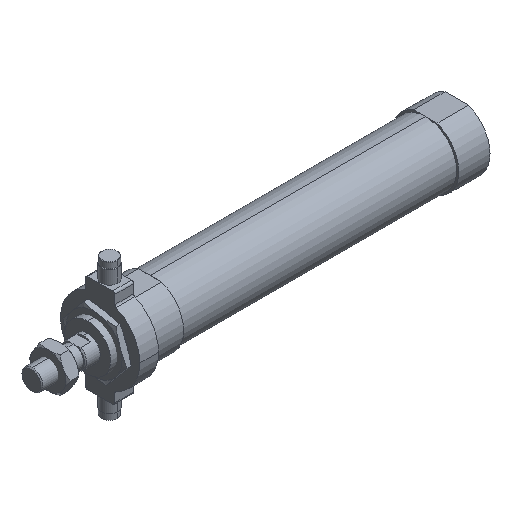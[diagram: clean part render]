
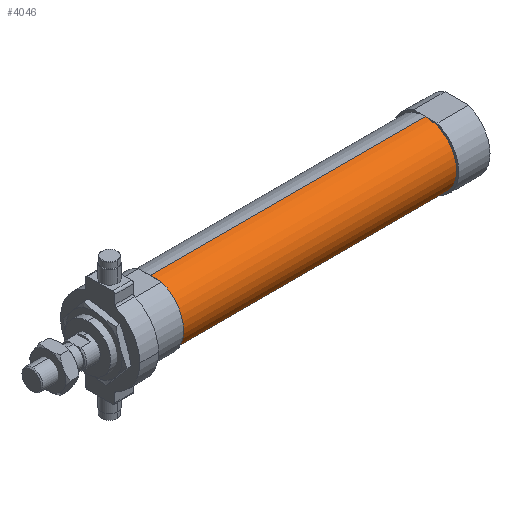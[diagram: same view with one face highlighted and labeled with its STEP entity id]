
A CAD part, isometric view. The second image highlights one B-rep face of the part: STEP entity #4046.
In plain terms, the highlighted cylindrical face has radius 15 mm (diameter 30 mm), a partial arc.
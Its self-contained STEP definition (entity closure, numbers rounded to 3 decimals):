
#7 = CARTESIAN_POINT ( 'NONE',  ( -6.469, 0., 0. ) ) ;
#166 = CARTESIAN_POINT ( 'NONE',  ( -6.469, 0., -15. ) ) ;
#232 = VECTOR ( 'NONE', #2465, 1000. ) ;
#291 = LINE ( 'NONE', #166, #3439 ) ;
#523 = CARTESIAN_POINT ( 'NONE',  ( 57., 0., -15. ) ) ;
#546 = EDGE_CURVE ( 'NONE', #1867, #3347, #291, .T. ) ;
#595 = EDGE_CURVE ( 'NONE', #3347, #2069, #1231, .T. ) ;
#869 = ORIENTED_EDGE ( 'NONE', *, *, #546, .F. ) ;
#982 = EDGE_CURVE ( 'NONE', #1867, #1923, #4026, .T. ) ;
#1015 = CARTESIAN_POINT ( 'NONE',  ( 189., 0., 0. ) ) ;
#1050 = FACE_OUTER_BOUND ( 'NONE', #3938, .T. ) ;
#1102 = DIRECTION ( 'NONE',  ( -1., 0., 0. ) ) ;
#1231 = CIRCLE ( 'NONE', #2797, 15. ) ;
#1415 = DIRECTION ( 'NONE',  ( 0., 0., 1. ) ) ;
#1656 = DIRECTION ( 'NONE',  ( 0., 0., 1. ) ) ;
#1867 = VERTEX_POINT ( 'NONE', #2944 ) ;
#1875 = DIRECTION ( 'NONE',  ( -1., 0., 0. ) ) ;
#1923 = VERTEX_POINT ( 'NONE', #3113 ) ;
#1989 = ORIENTED_EDGE ( 'NONE', *, *, #595, .F. ) ;
#2069 = VERTEX_POINT ( 'NONE', #3781 ) ;
#2094 = EDGE_CURVE ( 'NONE', #1923, #2069, #4025, .T. ) ;
#2338 = DIRECTION ( 'NONE',  ( -1., 0., 0. ) ) ;
#2465 = DIRECTION ( 'NONE',  ( -1., 0., 0. ) ) ;
#2543 = DIRECTION ( 'NONE',  ( 0., 0., 1. ) ) ;
#2653 = CARTESIAN_POINT ( 'NONE',  ( 57., 0., 0. ) ) ;
#2797 = AXIS2_PLACEMENT_3D ( 'NONE', #2653, #1875, #2543 ) ;
#2869 = AXIS2_PLACEMENT_3D ( 'NONE', #1015, #3053, #1415 ) ;
#2944 = CARTESIAN_POINT ( 'NONE',  ( 189., 0., -15. ) ) ;
#3053 = DIRECTION ( 'NONE',  ( -1., 0., 0. ) ) ;
#3113 = CARTESIAN_POINT ( 'NONE',  ( 189., 0., 15. ) ) ;
#3347 = VERTEX_POINT ( 'NONE', #523 ) ;
#3439 = VECTOR ( 'NONE', #1102, 1000. ) ;
#3612 = CYLINDRICAL_SURFACE ( 'NONE', #3944, 15. ) ;
#3781 = CARTESIAN_POINT ( 'NONE',  ( 57., 0., 15. ) ) ;
#3938 = EDGE_LOOP ( 'NONE', ( #869, #4190, #4225, #1989 ) ) ;
#3944 = AXIS2_PLACEMENT_3D ( 'NONE', #7, #2338, #1656 ) ;
#4025 = LINE ( 'NONE', #4096, #232 ) ;
#4026 = CIRCLE ( 'NONE', #2869, 15. ) ;
#4046 = ADVANCED_FACE ( 'NONE', ( #1050 ), #3612, .T. ) ;
#4096 = CARTESIAN_POINT ( 'NONE',  ( -6.469, 0., 15. ) ) ;
#4190 = ORIENTED_EDGE ( 'NONE', *, *, #982, .T. ) ;
#4225 = ORIENTED_EDGE ( 'NONE', *, *, #2094, .T. ) ;
